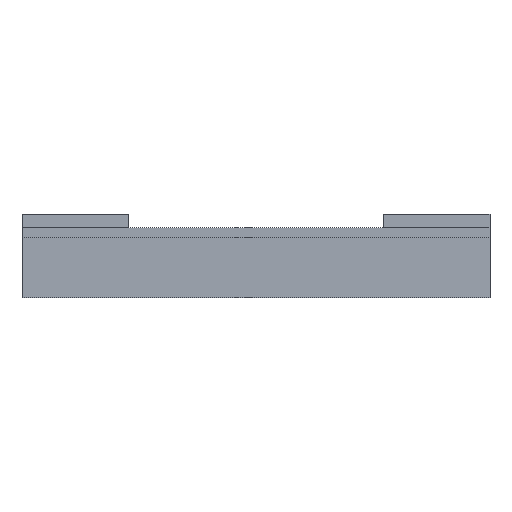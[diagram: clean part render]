
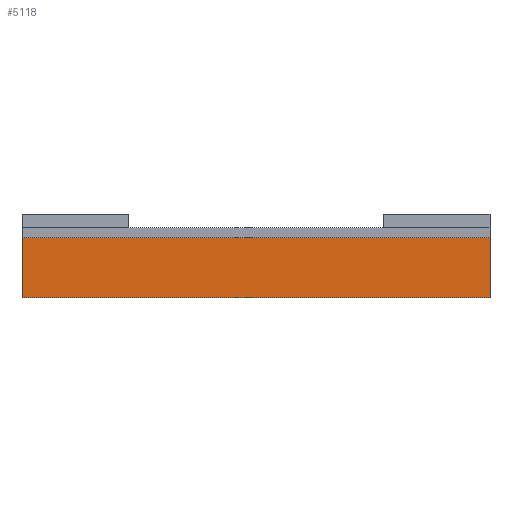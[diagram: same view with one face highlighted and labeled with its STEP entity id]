
A CAD part, front view. The second image highlights one B-rep face of the part: STEP entity #5118.
In plain terms, the highlighted planar face has unit normal (0, -1, 0).
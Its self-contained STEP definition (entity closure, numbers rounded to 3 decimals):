
#32 = PLANE('',#33);
#33 = AXIS2_PLACEMENT_3D('',#34,#35,#36);
#34 = CARTESIAN_POINT('',(-70.,-40.,-14.));
#35 = DIRECTION('',(1.,0.,0.));
#36 = DIRECTION('',(0.,0.,1.));
#85 = VERTEX_POINT('',#86);
#86 = CARTESIAN_POINT('',(-70.,-35.5,-14.));
#100 = PLANE('',#101);
#101 = AXIS2_PLACEMENT_3D('',#102,#103,#104);
#102 = CARTESIAN_POINT('',(-70.,-40.,-14.));
#103 = DIRECTION('',(0.,0.,1.));
#104 = DIRECTION('',(1.,0.,0.));
#112 = EDGE_CURVE('',#113,#85,#115,.T.);
#113 = VERTEX_POINT('',#114);
#114 = CARTESIAN_POINT('',(-70.,-35.5,-32.));
#115 = SURFACE_CURVE('',#116,(#120,#127),.PCURVE_S1.);
#116 = LINE('',#117,#118);
#117 = CARTESIAN_POINT('',(-70.,-35.5,-32.));
#118 = VECTOR('',#119,1.);
#119 = DIRECTION('',(0.,0.,1.));
#120 = PCURVE('',#32,#121);
#121 = DEFINITIONAL_REPRESENTATION('',(#122),#126);
#122 = LINE('',#123,#124);
#123 = CARTESIAN_POINT('',(-18.,-4.5));
#124 = VECTOR('',#125,1.);
#125 = DIRECTION('',(1.,0.));
#126 = ( GEOMETRIC_REPRESENTATION_CONTEXT(2) 
PARAMETRIC_REPRESENTATION_CONTEXT() REPRESENTATION_CONTEXT('2D SPACE',''
  ) );
#127 = PCURVE('',#128,#133);
#128 = PLANE('',#129);
#129 = AXIS2_PLACEMENT_3D('',#130,#131,#132);
#130 = CARTESIAN_POINT('',(-70.,-35.5,-32.));
#131 = DIRECTION('',(0.,1.,0.));
#132 = DIRECTION('',(0.,0.,1.));
#133 = DEFINITIONAL_REPRESENTATION('',(#134),#138);
#134 = LINE('',#135,#136);
#135 = CARTESIAN_POINT('',(0.,0.));
#136 = VECTOR('',#137,1.);
#137 = DIRECTION('',(1.,0.));
#138 = ( GEOMETRIC_REPRESENTATION_CONTEXT(2) 
PARAMETRIC_REPRESENTATION_CONTEXT() REPRESENTATION_CONTEXT('2D SPACE',''
  ) );
#156 = PLANE('',#157);
#157 = AXIS2_PLACEMENT_3D('',#158,#159,#160);
#158 = CARTESIAN_POINT('',(-70.,-35.5,-32.));
#159 = DIRECTION('',(0.,0.,1.));
#160 = DIRECTION('',(1.,0.,0.));
#1856 = PLANE('',#1857);
#1857 = AXIS2_PLACEMENT_3D('',#1858,#1859,#1860);
#1858 = CARTESIAN_POINT('',(70.,-40.,-14.));
#1859 = DIRECTION('',(1.,0.,0.));
#1860 = DIRECTION('',(0.,0.,1.));
#3052 = VERTEX_POINT('',#3053);
#3053 = CARTESIAN_POINT('',(70.,-35.5,-14.));
#3074 = EDGE_CURVE('',#3052,#85,#3075,.T.);
#3075 = SURFACE_CURVE('',#3076,(#3080,#3086),.PCURVE_S1.);
#3076 = LINE('',#3077,#3078);
#3077 = CARTESIAN_POINT('',(-70.,-35.5,-14.));
#3078 = VECTOR('',#3079,1.);
#3079 = DIRECTION('',(-1.,0.,0.));
#3080 = PCURVE('',#100,#3081);
#3081 = DEFINITIONAL_REPRESENTATION('',(#3082),#3085);
#3082 = B_SPLINE_CURVE_WITH_KNOTS('',1,(#3083,#3084),.UNSPECIFIED.,.F.,
  .F.,(2,2),(-140.,0.),.PIECEWISE_BEZIER_KNOTS.);
#3083 = CARTESIAN_POINT('',(140.,4.5));
#3084 = CARTESIAN_POINT('',(0.,4.5));
#3085 = ( GEOMETRIC_REPRESENTATION_CONTEXT(2) 
PARAMETRIC_REPRESENTATION_CONTEXT() REPRESENTATION_CONTEXT('2D SPACE',''
  ) );
#3086 = PCURVE('',#128,#3087);
#3087 = DEFINITIONAL_REPRESENTATION('',(#3088),#3091);
#3088 = B_SPLINE_CURVE_WITH_KNOTS('',1,(#3089,#3090),.UNSPECIFIED.,.F.,
  .F.,(2,2),(-140.,0.),.PIECEWISE_BEZIER_KNOTS.);
#3089 = CARTESIAN_POINT('',(18.,140.));
#3090 = CARTESIAN_POINT('',(18.,0.));
#3091 = ( GEOMETRIC_REPRESENTATION_CONTEXT(2) 
PARAMETRIC_REPRESENTATION_CONTEXT() REPRESENTATION_CONTEXT('2D SPACE',''
  ) );
#3245 = EDGE_CURVE('',#3246,#3052,#3248,.T.);
#3246 = VERTEX_POINT('',#3247);
#3247 = CARTESIAN_POINT('',(70.,-35.5,-32.));
#3248 = SURFACE_CURVE('',#3249,(#3253,#3260),.PCURVE_S1.);
#3249 = LINE('',#3250,#3251);
#3250 = CARTESIAN_POINT('',(70.,-35.5,-32.));
#3251 = VECTOR('',#3252,1.);
#3252 = DIRECTION('',(0.,0.,1.));
#3253 = PCURVE('',#1856,#3254);
#3254 = DEFINITIONAL_REPRESENTATION('',(#3255),#3259);
#3255 = LINE('',#3256,#3257);
#3256 = CARTESIAN_POINT('',(-18.,-4.5));
#3257 = VECTOR('',#3258,1.);
#3258 = DIRECTION('',(1.,0.));
#3259 = ( GEOMETRIC_REPRESENTATION_CONTEXT(2) 
PARAMETRIC_REPRESENTATION_CONTEXT() REPRESENTATION_CONTEXT('2D SPACE',''
  ) );
#3260 = PCURVE('',#128,#3261);
#3261 = DEFINITIONAL_REPRESENTATION('',(#3262),#3266);
#3262 = LINE('',#3263,#3264);
#3263 = CARTESIAN_POINT('',(0.,140.));
#3264 = VECTOR('',#3265,1.);
#3265 = DIRECTION('',(1.,0.));
#3266 = ( GEOMETRIC_REPRESENTATION_CONTEXT(2) 
PARAMETRIC_REPRESENTATION_CONTEXT() REPRESENTATION_CONTEXT('2D SPACE',''
  ) );
#5118 = ADVANCED_FACE('',(#5119),#128,.F.);
#5119 = FACE_BOUND('',#5120,.F.);
#5120 = EDGE_LOOP('',(#5121,#5122,#5143,#5144));
#5121 = ORIENTED_EDGE('',*,*,#3245,.F.);
#5122 = ORIENTED_EDGE('',*,*,#5123,.F.);
#5123 = EDGE_CURVE('',#113,#3246,#5124,.T.);
#5124 = SURFACE_CURVE('',#5125,(#5129,#5136),.PCURVE_S1.);
#5125 = LINE('',#5126,#5127);
#5126 = CARTESIAN_POINT('',(-70.,-35.5,-32.));
#5127 = VECTOR('',#5128,1.);
#5128 = DIRECTION('',(1.,0.,0.));
#5129 = PCURVE('',#128,#5130);
#5130 = DEFINITIONAL_REPRESENTATION('',(#5131),#5135);
#5131 = LINE('',#5132,#5133);
#5132 = CARTESIAN_POINT('',(0.,0.));
#5133 = VECTOR('',#5134,1.);
#5134 = DIRECTION('',(0.,1.));
#5135 = ( GEOMETRIC_REPRESENTATION_CONTEXT(2) 
PARAMETRIC_REPRESENTATION_CONTEXT() REPRESENTATION_CONTEXT('2D SPACE',''
  ) );
#5136 = PCURVE('',#156,#5137);
#5137 = DEFINITIONAL_REPRESENTATION('',(#5138),#5142);
#5138 = LINE('',#5139,#5140);
#5139 = CARTESIAN_POINT('',(0.,0.));
#5140 = VECTOR('',#5141,1.);
#5141 = DIRECTION('',(1.,0.));
#5142 = ( GEOMETRIC_REPRESENTATION_CONTEXT(2) 
PARAMETRIC_REPRESENTATION_CONTEXT() REPRESENTATION_CONTEXT('2D SPACE',''
  ) );
#5143 = ORIENTED_EDGE('',*,*,#112,.T.);
#5144 = ORIENTED_EDGE('',*,*,#3074,.F.);
